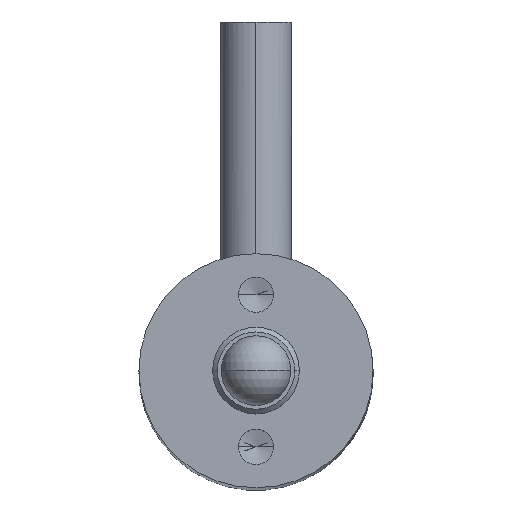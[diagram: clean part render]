
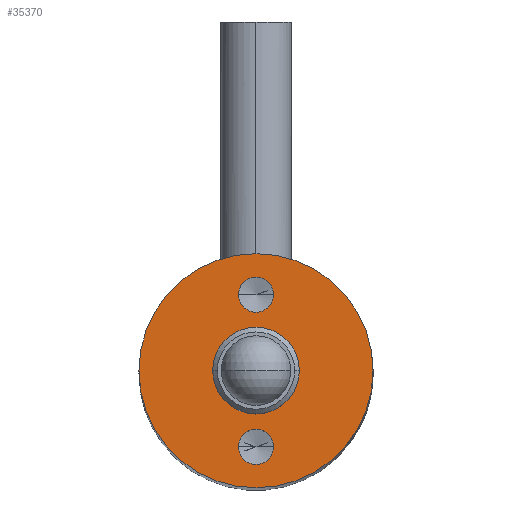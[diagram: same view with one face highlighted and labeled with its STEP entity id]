
A CAD part, top view. The second image highlights one B-rep face of the part: STEP entity #35370.
In plain terms, the highlighted planar face has unit normal (0, 0, 1).
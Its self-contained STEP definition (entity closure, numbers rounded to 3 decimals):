
#642 = VERTEX_POINT ( 'NONE', #27264 ) ;
#3059 = EDGE_CURVE ( 'NONE', #32835, #34899, #29667, .T. ) ;
#3340 = DIRECTION ( 'NONE',  ( 1., 0., 0. ) ) ;
#4702 = DIRECTION ( 'NONE',  ( 0., 0., 1. ) ) ;
#4867 = EDGE_CURVE ( 'NONE', #36405, #34111, #37127, .T. ) ;
#5244 = DIRECTION ( 'NONE',  ( 1., 0., 0. ) ) ;
#5628 = CIRCLE ( 'NONE', #26093, 1.85 ) ;
#6035 = EDGE_CURVE ( 'NONE', #34899, #32835, #40622, .T. ) ;
#6083 = FACE_OUTER_BOUND ( 'NONE', #24836, .T. ) ;
#6420 = CARTESIAN_POINT ( 'NONE',  ( 1.85, 0., 64.5 ) ) ;
#6684 = CARTESIAN_POINT ( 'NONE',  ( -5., 0., 64.5 ) ) ;
#7156 = CARTESIAN_POINT ( 'NONE',  ( 5., 0., 64.5 ) ) ;
#7905 = CARTESIAN_POINT ( 'NONE',  ( 0., 0., 64.5 ) ) ;
#9415 = VERTEX_POINT ( 'NONE', #22508 ) ;
#9779 = CARTESIAN_POINT ( 'NONE',  ( 0.75, -3.25, 64.5 ) ) ;
#11530 = DIRECTION ( 'NONE',  ( 0., 0., 1. ) ) ;
#12001 = PLANE ( 'NONE',  #38424 ) ;
#12087 = EDGE_LOOP ( 'NONE', ( #20712, #39074 ) ) ;
#12422 = VERTEX_POINT ( 'NONE', #6420 ) ;
#13204 = DIRECTION ( 'NONE',  ( 0., 0., 1. ) ) ;
#13802 = DIRECTION ( 'NONE',  ( 1., 0., 0. ) ) ;
#13936 = DIRECTION ( 'NONE',  ( 0., 0., 1. ) ) ;
#14400 = VERTEX_POINT ( 'NONE', #26941 ) ;
#14587 = FACE_BOUND ( 'NONE', #33746, .T. ) ;
#14604 = CARTESIAN_POINT ( 'NONE',  ( 0., -3.25, 64.5 ) ) ;
#14808 = DIRECTION ( 'NONE',  ( 1., 0., 0. ) ) ;
#15221 = CIRCLE ( 'NONE', #35115, 0.75 ) ;
#17534 = CARTESIAN_POINT ( 'NONE',  ( 0., -3.25, 64.5 ) ) ;
#17684 = EDGE_LOOP ( 'NONE', ( #21206, #31921 ) ) ;
#17795 = DIRECTION ( 'NONE',  ( 1., 0., 0. ) ) ;
#18377 = EDGE_CURVE ( 'NONE', #34111, #36405, #32302, .T. ) ;
#19582 = EDGE_CURVE ( 'NONE', #9415, #642, #22771, .T. ) ;
#19899 = ORIENTED_EDGE ( 'NONE', *, *, #18377, .T. ) ;
#20712 = ORIENTED_EDGE ( 'NONE', *, *, #26650, .F. ) ;
#21206 = ORIENTED_EDGE ( 'NONE', *, *, #3059, .F. ) ;
#21672 = CIRCLE ( 'NONE', #35555, 1.85 ) ;
#21764 = EDGE_CURVE ( 'NONE', #642, #9415, #15221, .T. ) ;
#22379 = CARTESIAN_POINT ( 'NONE',  ( 0., 3.25, 64.5 ) ) ;
#22483 = CARTESIAN_POINT ( 'NONE',  ( 0., 0., 64.5 ) ) ;
#22508 = CARTESIAN_POINT ( 'NONE',  ( 0.75, 3.25, 64.5 ) ) ;
#22771 = CIRCLE ( 'NONE', #24647, 0.75 ) ;
#24647 = AXIS2_PLACEMENT_3D ( 'NONE', #22379, #28382, #41045 ) ;
#24836 = EDGE_LOOP ( 'NONE', ( #19899, #25137 ) ) ;
#25137 = ORIENTED_EDGE ( 'NONE', *, *, #4867, .T. ) ;
#26093 = AXIS2_PLACEMENT_3D ( 'NONE', #7905, #4702, #5244 ) ;
#26650 = EDGE_CURVE ( 'NONE', #14400, #12422, #21672, .T. ) ;
#26941 = CARTESIAN_POINT ( 'NONE',  ( -1.85, 0., 64.5 ) ) ;
#27167 = DIRECTION ( 'NONE',  ( 0., 0., 1. ) ) ;
#27264 = CARTESIAN_POINT ( 'NONE',  ( -0.75, 3.25, 64.5 ) ) ;
#28382 = DIRECTION ( 'NONE',  ( 0., 0., 1. ) ) ;
#29568 = FACE_BOUND ( 'NONE', #12087, .T. ) ;
#29667 = CIRCLE ( 'NONE', #38945, 0.75 ) ;
#30341 = EDGE_CURVE ( 'NONE', #12422, #14400, #5628, .T. ) ;
#31747 = AXIS2_PLACEMENT_3D ( 'NONE', #34061, #40304, #14808 ) ;
#31921 = ORIENTED_EDGE ( 'NONE', *, *, #6035, .F. ) ;
#32092 = ORIENTED_EDGE ( 'NONE', *, *, #21764, .F. ) ;
#32302 = CIRCLE ( 'NONE', #34816, 5. ) ;
#32545 = AXIS2_PLACEMENT_3D ( 'NONE', #14604, #27167, #17795 ) ;
#32579 = FACE_BOUND ( 'NONE', #17684, .T. ) ;
#32835 = VERTEX_POINT ( 'NONE', #9779 ) ;
#33326 = CARTESIAN_POINT ( 'NONE',  ( 0., 0., 64.5 ) ) ;
#33746 = EDGE_LOOP ( 'NONE', ( #36890, #32092 ) ) ;
#34061 = CARTESIAN_POINT ( 'NONE',  ( 0., 0., 64.5 ) ) ;
#34111 = VERTEX_POINT ( 'NONE', #6684 ) ;
#34531 = CARTESIAN_POINT ( 'NONE',  ( -0.75, -3.25, 64.5 ) ) ;
#34816 = AXIS2_PLACEMENT_3D ( 'NONE', #35802, #13204, #35534 ) ;
#34899 = VERTEX_POINT ( 'NONE', #34531 ) ;
#35115 = AXIS2_PLACEMENT_3D ( 'NONE', #41193, #41052, #40635 ) ;
#35370 = ADVANCED_FACE ( 'NONE', ( #32579, #14587, #29568, #6083 ), #12001, .T. ) ;
#35534 = DIRECTION ( 'NONE',  ( 1., 0., 0. ) ) ;
#35555 = AXIS2_PLACEMENT_3D ( 'NONE', #33326, #13936, #13802 ) ;
#35802 = CARTESIAN_POINT ( 'NONE',  ( 0., 0., 64.5 ) ) ;
#36405 = VERTEX_POINT ( 'NONE', #7156 ) ;
#36890 = ORIENTED_EDGE ( 'NONE', *, *, #19582, .F. ) ;
#37127 = CIRCLE ( 'NONE', #31747, 5. ) ;
#38246 = DIRECTION ( 'NONE',  ( 0., 0., 1. ) ) ;
#38424 = AXIS2_PLACEMENT_3D ( 'NONE', #22483, #38246, #3340 ) ;
#38945 = AXIS2_PLACEMENT_3D ( 'NONE', #17534, #11530, #39851 ) ;
#39074 = ORIENTED_EDGE ( 'NONE', *, *, #30341, .F. ) ;
#39851 = DIRECTION ( 'NONE',  ( 1., 0., 0. ) ) ;
#40304 = DIRECTION ( 'NONE',  ( 0., 0., 1. ) ) ;
#40622 = CIRCLE ( 'NONE', #32545, 0.75 ) ;
#40635 = DIRECTION ( 'NONE',  ( 1., 0., 0. ) ) ;
#41045 = DIRECTION ( 'NONE',  ( 1., 0., 0. ) ) ;
#41052 = DIRECTION ( 'NONE',  ( 0., 0., 1. ) ) ;
#41193 = CARTESIAN_POINT ( 'NONE',  ( 0., 3.25, 64.5 ) ) ;
